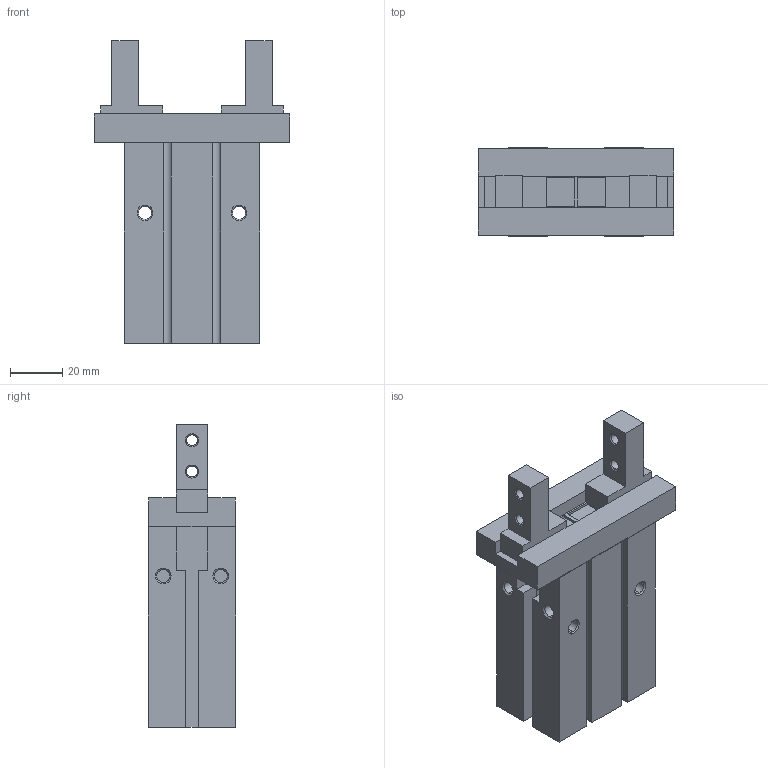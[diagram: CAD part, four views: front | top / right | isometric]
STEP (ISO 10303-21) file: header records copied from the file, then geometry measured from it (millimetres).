
FILE_DESCRIPTION (( 'STEP AP203' ), '1' );
FILE_NAME ('GMHZL2-25S.STEP', '2024-07-24T07:35:17', ( '微软用户' ), ( '微软中国' ), 'SwSTEP 2.0', 'SolidWorks 2018', '' );
FILE_SCHEMA (( 'CONFIG_CONTROL_DESIGN' ));
Length unit declared in the file: millimetre
Products named in the file (3): _MHZL2-25S_Finger(0); GMHZL2-25S; _MHZL2-25S_Body(0)
Assembly tree (3 placements, depth 2):
  GMHZL2-25S
    _MHZL2-25S_Body(0)
    _MHZL2-25S_Finger(0)  x2
Bounding box: 75 x 33.6 x 116 mm (x, y, z)
Volume: 144992.8 mm3; surface area: 35334.9 mm2
Topology: 3 solids, 3 shells, 215 faces, 552 edges, 352 vertices
Faces by surface type: plane 123, cylinder 50, cone 42
Entity records: 5951 total; most frequent: CARTESIAN_POINT 995, DIRECTION 990, ORIENTED_EDGE 952, EDGE_CURVE 476, AXIS2_PLACEMENT_3D 331, LINE 328, VECTOR 328, VERTEX_POINT 304
